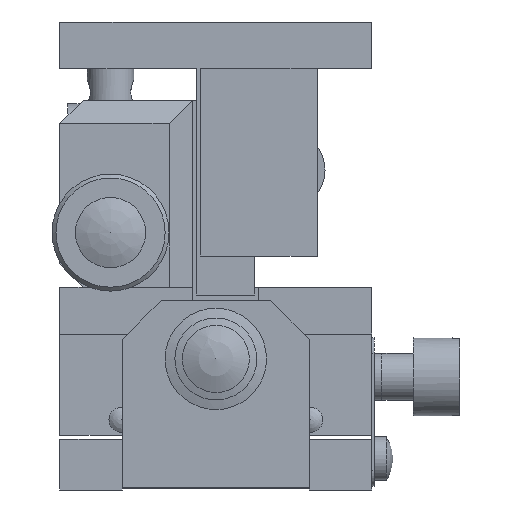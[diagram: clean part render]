
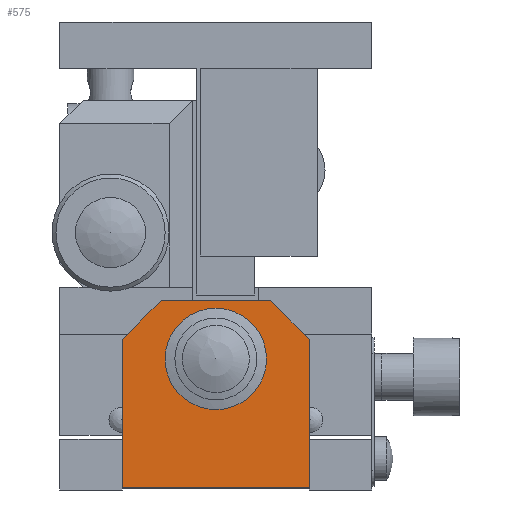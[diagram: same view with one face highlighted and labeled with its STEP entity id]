
A CAD part, front view. The second image highlights one B-rep face of the part: STEP entity #575.
In plain terms, the highlighted planar face has unit normal (0, -1, 0).
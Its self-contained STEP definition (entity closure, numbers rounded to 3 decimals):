
#575 = ADVANCED_FACE( '', ( #1235, #1236 ), #1237, .T. );
#1235 = FACE_BOUND( '', #2117, .T. );
#1236 = FACE_OUTER_BOUND( '', #2118, .T. );
#1237 = PLANE( '', #2119 );
#2117 = EDGE_LOOP( '', ( #3961 ) );
#2118 = EDGE_LOOP( '', ( #3962, #3963, #3964, #3965, #3966, #3967 ) );
#2119 = AXIS2_PLACEMENT_3D( '', #3968, #3969, #3970 );
#3961 = ORIENTED_EDGE( '', *, *, #5135, .F. );
#3962 = ORIENTED_EDGE( '', *, *, #5132, .T. );
#3963 = ORIENTED_EDGE( '', *, *, #5136, .T. );
#3964 = ORIENTED_EDGE( '', *, *, #5121, .T. );
#3965 = ORIENTED_EDGE( '', *, *, #5137, .T. );
#3966 = ORIENTED_EDGE( '', *, *, #5125, .F. );
#3967 = ORIENTED_EDGE( '', *, *, #5138, .T. );
#3968 = CARTESIAN_POINT( '', ( 0., -40.5, 0.3 ) );
#3969 = DIRECTION( '', ( 0., -1., 0. ) );
#3970 = DIRECTION( '', ( 0., 0., -1. ) );
#5121 = EDGE_CURVE( '', #6105, #6106, #6107, .T. );
#5125 = EDGE_CURVE( '', #6113, #6114, #6115, .T. );
#5132 = EDGE_CURVE( '', #6127, #6125, #6128, .T. );
#5135 = EDGE_CURVE( '', #6131, #6131, #6132, .T. );
#5136 = EDGE_CURVE( '', #6125, #6105, #6133, .F. );
#5137 = EDGE_CURVE( '', #6106, #6114, #6134, .F. );
#5138 = EDGE_CURVE( '', #6113, #6127, #6135, .T. );
#6105 = VERTEX_POINT( '', #7818 );
#6106 = VERTEX_POINT( '', #7819 );
#6107 = LINE( '', #7820, #7821 );
#6113 = VERTEX_POINT( '', #7830 );
#6114 = VERTEX_POINT( '', #7831 );
#6115 = LINE( '', #7832, #7833 );
#6125 = VERTEX_POINT( '', #7848 );
#6127 = VERTEX_POINT( '', #7851 );
#6128 = LINE( '', #7852, #7853 );
#6131 = VERTEX_POINT( '', #7858 );
#6132 = CIRCLE( '', #7859, 5. );
#6133 = LINE( '', #7860, #7861 );
#6134 = LINE( '', #7862, #7863 );
#6135 = LINE( '', #7864, #7865 );
#7818 = CARTESIAN_POINT( '', ( 7., -40.5, 24.3 ) );
#7819 = CARTESIAN_POINT( '', ( -7., -40.5, 24.3 ) );
#7820 = CARTESIAN_POINT( '', ( 0., -40.5, 24.3 ) );
#7821 = VECTOR( '', #8915, 1000. );
#7830 = CARTESIAN_POINT( '', ( -12., -40.5, 0.3 ) );
#7831 = CARTESIAN_POINT( '', ( -12., -40.5, 19.3 ) );
#7832 = CARTESIAN_POINT( '', ( -12., -40.5, 0.3 ) );
#7833 = VECTOR( '', #8919, 1000. );
#7848 = CARTESIAN_POINT( '', ( 12., -40.5, 19.3 ) );
#7851 = CARTESIAN_POINT( '', ( 12., -40.5, 0.3 ) );
#7852 = CARTESIAN_POINT( '', ( 12., -40.5, 0.3 ) );
#7853 = VECTOR( '', #8926, 1000. );
#7858 = CARTESIAN_POINT( '', ( 0., -40.5, 11.8 ) );
#7859 = AXIS2_PLACEMENT_3D( '', #8929, #8930, #8931 );
#7860 = CARTESIAN_POINT( '', ( 15.5, -40.5, 15.8 ) );
#7861 = VECTOR( '', #8932, 1000. );
#7862 = CARTESIAN_POINT( '', ( -15.5, -40.5, 15.8 ) );
#7863 = VECTOR( '', #8933, 1000. );
#7864 = CARTESIAN_POINT( '', ( 0., -40.5, 0.3 ) );
#7865 = VECTOR( '', #8934, 1000. );
#8915 = DIRECTION( '', ( -1., 0., 0. ) );
#8919 = DIRECTION( '', ( 0., 0., 1. ) );
#8926 = DIRECTION( '', ( 0., 0., 1. ) );
#8929 = CARTESIAN_POINT( '', ( 0., -40.5, 16.8 ) );
#8930 = DIRECTION( '', ( 0., -1., 0. ) );
#8931 = DIRECTION( '', ( 0., 0., -1. ) );
#8932 = DIRECTION( '', ( 0.707, 0., -0.707 ) );
#8933 = DIRECTION( '', ( 0.707, 0., 0.707 ) );
#8934 = DIRECTION( '', ( 1., 0., 0. ) );
